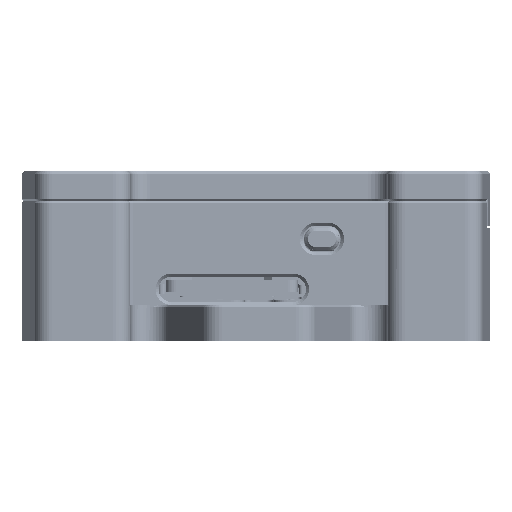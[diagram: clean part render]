
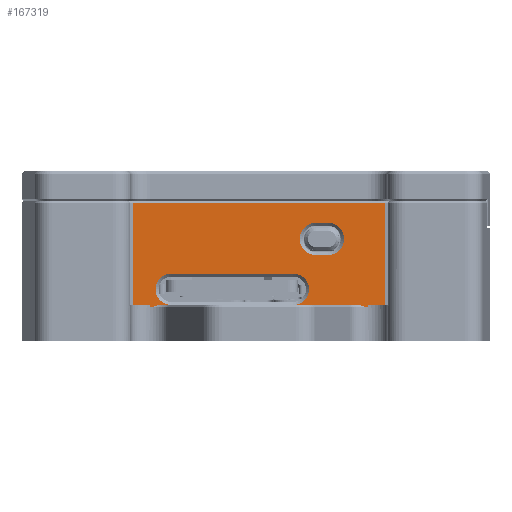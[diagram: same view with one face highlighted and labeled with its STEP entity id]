
A CAD part, left-side view. The second image highlights one B-rep face of the part: STEP entity #167319.
In plain terms, the highlighted planar face has unit normal (-1, 0, 0).
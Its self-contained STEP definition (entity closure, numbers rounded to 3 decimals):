
#25=(
BOUNDED_CURVE()
B_SPLINE_CURVE(2,(#372871,#372872,#372873),.UNSPECIFIED.,.F.,.F.)
B_SPLINE_CURVE_WITH_KNOTS((3,3),(0.073,0.146),
 .UNSPECIFIED.)
CURVE()
GEOMETRIC_REPRESENTATION_ITEM()
RATIONAL_B_SPLINE_CURVE((1.,1.023,1.))
REPRESENTATION_ITEM('')
);
#26=(
BOUNDED_CURVE()
B_SPLINE_CURVE(2,(#372877,#372878,#372879),.UNSPECIFIED.,.F.,.F.)
B_SPLINE_CURVE_WITH_KNOTS((3,3),(0.,0.073),.UNSPECIFIED.)
CURVE()
GEOMETRIC_REPRESENTATION_ITEM()
RATIONAL_B_SPLINE_CURVE((1.,1.023,1.))
REPRESENTATION_ITEM('')
);
#5357=FACE_BOUND('',#28835,.T.);
#5358=FACE_BOUND('',#28836,.T.);
#11159=PLANE('',#180467);
#19780=FACE_OUTER_BOUND('',#28834,.T.);
#28834=EDGE_LOOP('',(#155386,#155387,#155388,#155389,#155390,#155391,#155392,
#155393,#155394,#155395));
#28835=EDGE_LOOP('',(#155396,#155397,#155398,#155399));
#28836=EDGE_LOOP('',(#155400,#155401,#155402,#155403));
#32654=CIRCLE('',#180457,1.35);
#32656=CIRCLE('',#180461,1.35);
#32659=CIRCLE('',#180468,1.3);
#32660=CIRCLE('',#180469,1.3);
#52084=LINE('',#372839,#69846);
#52087=LINE('',#372848,#69849);
#52093=LINE('',#372863,#69855);
#52094=LINE('',#372865,#69856);
#52095=LINE('',#372867,#69857);
#52096=LINE('',#372869,#69858);
#52097=LINE('',#372875,#69859);
#52098=LINE('',#372881,#69860);
#52099=LINE('',#372883,#69861);
#52100=LINE('',#372884,#69862);
#52101=LINE('',#372889,#69863);
#52102=LINE('',#372892,#69864);
#69846=VECTOR('',#222450,10.);
#69849=VECTOR('',#222461,10.);
#69855=VECTOR('',#222475,10.);
#69856=VECTOR('',#222476,10.);
#69857=VECTOR('',#222477,10.);
#69858=VECTOR('',#222478,10.);
#69859=VECTOR('',#222479,10.);
#69860=VECTOR('',#222480,10.);
#69861=VECTOR('',#222481,10.);
#69862=VECTOR('',#222482,10.);
#69863=VECTOR('',#222485,10.);
#69864=VECTOR('',#222488,10.);
#85348=VERTEX_POINT('',#372828);
#85349=VERTEX_POINT('',#372830);
#85352=VERTEX_POINT('',#372837);
#85354=VERTEX_POINT('',#372843);
#85358=VERTEX_POINT('',#372861);
#85359=VERTEX_POINT('',#372862);
#85360=VERTEX_POINT('',#372864);
#85361=VERTEX_POINT('',#372866);
#85362=VERTEX_POINT('',#372868);
#85363=VERTEX_POINT('',#372870);
#85364=VERTEX_POINT('',#372874);
#85365=VERTEX_POINT('',#372876);
#85366=VERTEX_POINT('',#372880);
#85367=VERTEX_POINT('',#372882);
#85368=VERTEX_POINT('',#372885);
#85369=VERTEX_POINT('',#372886);
#85370=VERTEX_POINT('',#372888);
#85371=VERTEX_POINT('',#372890);
#108757=EDGE_CURVE('',#85348,#85349,#32654,.T.);
#108761=EDGE_CURVE('',#85352,#85348,#52084,.T.);
#108764=EDGE_CURVE('',#85354,#85352,#32656,.T.);
#108766=EDGE_CURVE('',#85349,#85354,#52087,.T.);
#108773=EDGE_CURVE('',#85358,#85359,#52093,.T.);
#108774=EDGE_CURVE('',#85360,#85358,#52094,.T.);
#108775=EDGE_CURVE('',#85360,#85361,#52095,.T.);
#108776=EDGE_CURVE('',#85361,#85362,#52096,.T.);
#108777=EDGE_CURVE('',#85362,#85363,#25,.T.);
#108778=EDGE_CURVE('',#85363,#85364,#52097,.T.);
#108779=EDGE_CURVE('',#85364,#85365,#26,.T.);
#108780=EDGE_CURVE('',#85365,#85366,#52098,.T.);
#108781=EDGE_CURVE('',#85367,#85366,#52099,.T.);
#108782=EDGE_CURVE('',#85367,#85359,#52100,.T.);
#108783=EDGE_CURVE('',#85368,#85369,#32659,.T.);
#108784=EDGE_CURVE('',#85370,#85368,#52101,.T.);
#108785=EDGE_CURVE('',#85371,#85370,#32660,.T.);
#108786=EDGE_CURVE('',#85369,#85371,#52102,.T.);
#155386=ORIENTED_EDGE('',*,*,#108773,.F.);
#155387=ORIENTED_EDGE('',*,*,#108774,.F.);
#155388=ORIENTED_EDGE('',*,*,#108775,.T.);
#155389=ORIENTED_EDGE('',*,*,#108776,.T.);
#155390=ORIENTED_EDGE('',*,*,#108777,.T.);
#155391=ORIENTED_EDGE('',*,*,#108778,.T.);
#155392=ORIENTED_EDGE('',*,*,#108779,.T.);
#155393=ORIENTED_EDGE('',*,*,#108780,.T.);
#155394=ORIENTED_EDGE('',*,*,#108781,.F.);
#155395=ORIENTED_EDGE('',*,*,#108782,.T.);
#155396=ORIENTED_EDGE('',*,*,#108783,.F.);
#155397=ORIENTED_EDGE('',*,*,#108784,.F.);
#155398=ORIENTED_EDGE('',*,*,#108785,.F.);
#155399=ORIENTED_EDGE('',*,*,#108786,.F.);
#155400=ORIENTED_EDGE('',*,*,#108757,.F.);
#155401=ORIENTED_EDGE('',*,*,#108761,.F.);
#155402=ORIENTED_EDGE('',*,*,#108764,.F.);
#155403=ORIENTED_EDGE('',*,*,#108766,.F.);
#167319=ADVANCED_FACE('',(#19780,#5357,#5358),#11159,.T.);
#180457=AXIS2_PLACEMENT_3D('',#372831,#222442,#222443);
#180461=AXIS2_PLACEMENT_3D('',#372845,#222455,#222456);
#180467=AXIS2_PLACEMENT_3D('',#372860,#222473,#222474);
#180468=AXIS2_PLACEMENT_3D('',#372887,#222483,#222484);
#180469=AXIS2_PLACEMENT_3D('',#372891,#222486,#222487);
#222442=DIRECTION('center_axis',(-1.,0.,0.));
#222443=DIRECTION('ref_axis',(0.,0.,-1.));
#222450=DIRECTION('',(0.,-1.,0.));
#222455=DIRECTION('center_axis',(-1.,0.,0.));
#222456=DIRECTION('ref_axis',(0.,0.,1.));
#222461=DIRECTION('',(0.,1.,0.));
#222473=DIRECTION('center_axis',(-1.,0.,0.));
#222474=DIRECTION('ref_axis',(0.,-1.,0.));
#222475=DIRECTION('',(0.,-1.,0.));
#222476=DIRECTION('',(0.,0.,1.));
#222477=DIRECTION('',(0.,-1.,0.));
#222478=DIRECTION('',(0.,0.,-1.));
#222479=DIRECTION('',(0.,-1.,0.));
#222480=DIRECTION('',(0.,0.,1.));
#222481=DIRECTION('',(0.,1.,0.));
#222482=DIRECTION('',(0.,0.,1.));
#222483=DIRECTION('center_axis',(-1.,0.,0.));
#222484=DIRECTION('ref_axis',(0.,0.,1.));
#222485=DIRECTION('',(0.,1.,0.));
#222486=DIRECTION('center_axis',(-1.,0.,0.));
#222487=DIRECTION('ref_axis',(0.,0.,-1.));
#222488=DIRECTION('',(0.,-1.,0.));
#372828=CARTESIAN_POINT('',(-18.5,-5.746,0.073));
#372830=CARTESIAN_POINT('',(-18.5,-5.746,2.773));
#372831=CARTESIAN_POINT('Origin',(-18.5,-5.746,1.423));
#372837=CARTESIAN_POINT('',(-18.5,-4.746,0.073));
#372839=CARTESIAN_POINT('',(-18.5,1.824,0.073));
#372843=CARTESIAN_POINT('',(-18.5,-4.746,2.773));
#372845=CARTESIAN_POINT('Origin',(-18.5,-4.746,1.423));
#372848=CARTESIAN_POINT('',(-18.5,2.324,2.773));
#372860=CARTESIAN_POINT('Origin',(-18.5,9.395,-7.1));
#372861=CARTESIAN_POINT('',(-18.5,10.491,4.45));
#372862=CARTESIAN_POINT('',(-18.5,-10.491,4.45));
#372863=CARTESIAN_POINT('',(-18.5,4.822,4.45));
#372864=CARTESIAN_POINT('',(-18.5,10.491,-4.1));
#372865=CARTESIAN_POINT('',(-18.5,10.491,-4.1));
#372866=CARTESIAN_POINT('',(-18.5,9.095,-4.1));
#372867=CARTESIAN_POINT('',(-18.5,10.164,-4.1));
#372868=CARTESIAN_POINT('',(-18.5,9.095,-4.25));
#372869=CARTESIAN_POINT('',(-18.5,9.095,-7.1));
#372870=CARTESIAN_POINT('',(-18.5,8.386,-4.1));
#372871=CARTESIAN_POINT('Ctrl Pts',(-18.5,9.095,-4.25));
#372872=CARTESIAN_POINT('Ctrl Pts',(-18.5,8.756,-4.25));
#372873=CARTESIAN_POINT('Ctrl Pts',(-18.5,8.386,-4.1));
#372874=CARTESIAN_POINT('',(-18.5,-8.386,-4.1));
#372875=CARTESIAN_POINT('',(-18.5,4.697,-4.1));
#372876=CARTESIAN_POINT('',(-18.5,-9.095,-4.25));
#372877=CARTESIAN_POINT('Ctrl Pts',(-18.5,-8.386,-4.1));
#372878=CARTESIAN_POINT('Ctrl Pts',(-18.5,-8.756,-4.25));
#372879=CARTESIAN_POINT('Ctrl Pts',(-18.5,-9.095,-4.25));
#372880=CARTESIAN_POINT('',(-18.5,-9.095,-4.1));
#372881=CARTESIAN_POINT('',(-18.5,-9.095,-7.1));
#372882=CARTESIAN_POINT('',(-18.5,-10.491,-4.1));
#372883=CARTESIAN_POINT('',(-18.5,-9.943,-4.1));
#372884=CARTESIAN_POINT('',(-18.5,-10.491,-4.1));
#372885=CARTESIAN_POINT('',(-18.5,7.322,-1.47));
#372886=CARTESIAN_POINT('',(-18.5,7.322,-4.07));
#372887=CARTESIAN_POINT('Origin',(-18.5,7.322,-2.77));
#372888=CARTESIAN_POINT('',(-18.5,-2.868,-1.47));
#372889=CARTESIAN_POINT('',(-18.5,8.358,-1.47));
#372890=CARTESIAN_POINT('',(-18.5,-2.868,-4.07));
#372891=CARTESIAN_POINT('Origin',(-18.5,-2.868,-2.77));
#372892=CARTESIAN_POINT('',(-18.5,3.263,-4.07));
